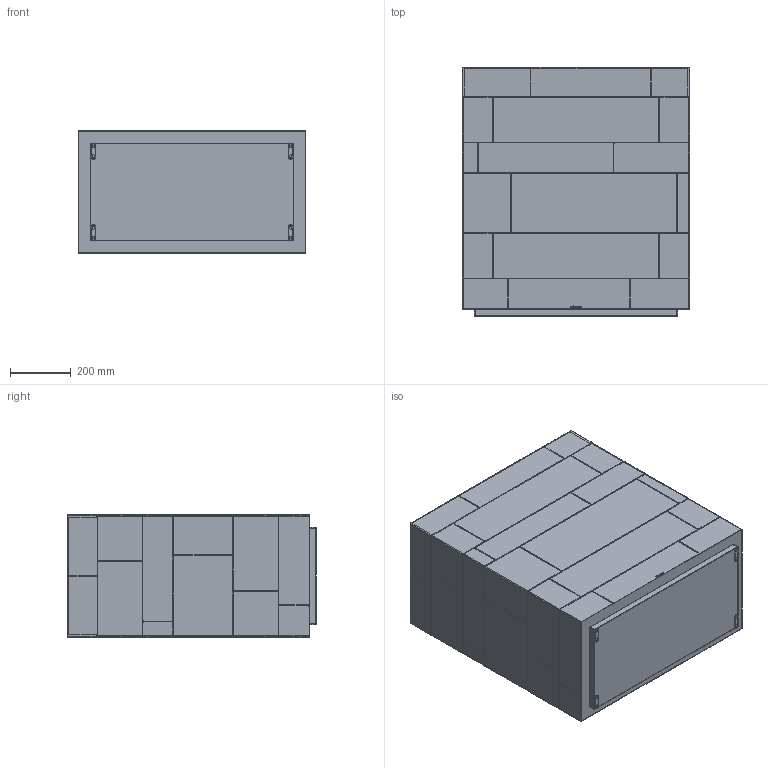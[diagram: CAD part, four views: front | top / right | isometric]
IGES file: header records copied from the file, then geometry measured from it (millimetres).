
Start section: SolidWorks IGES file using analytic representation for surfaces
Global section: file name: \\UTENTI\Dati Utenti\Tecnico\DC\2D - 3D per sito\3D\DeCastelli-3D-Celato 80 Chest of drawers.igs; native system: SolidWorks 2022; preprocessor: SolidWorks 2022; author: maria; date: 240712.143540; units: millimetre
Bounding box: 753 x 824.7 x 403 mm (x, y, z)
Surface area: 5149360.7 mm2 (no closed solid volume)
Topology: 0 solids, 0 shells, 411 faces, 4123 edges, 4123 vertices
Faces by surface type: bspline 321, revolution 90
